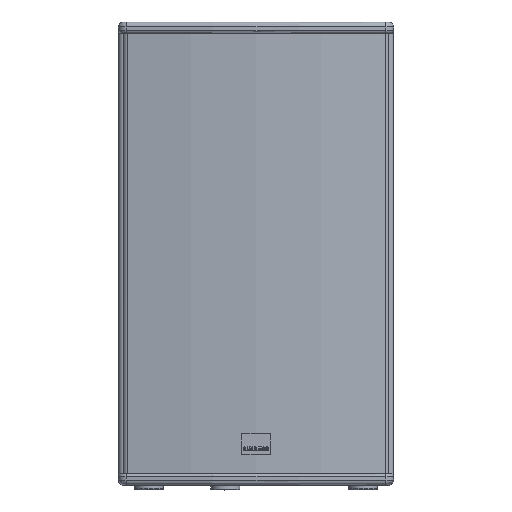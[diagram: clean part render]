
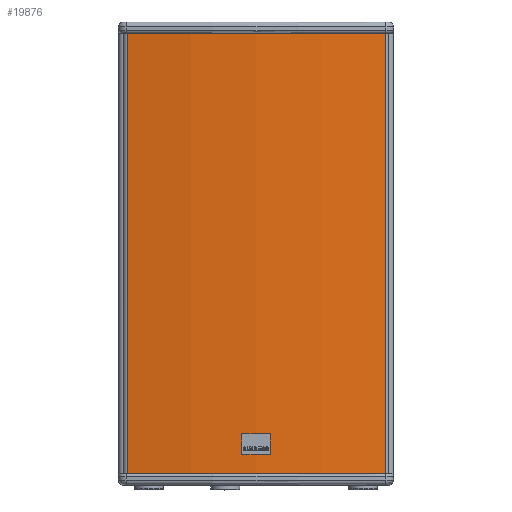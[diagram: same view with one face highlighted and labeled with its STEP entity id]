
A CAD part, top view. The second image highlights one B-rep face of the part: STEP entity #19876.
In plain terms, the highlighted cylindrical face has radius 952.205 mm (diameter 1904.41 mm), a partial arc.
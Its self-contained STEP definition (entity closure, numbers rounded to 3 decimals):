
#7920 = EDGE_CURVE ( 'NONE', #7927, #7946, #10424, .T. ) ;
#7921 = ORIENTED_EDGE ( 'NONE', *, *, #7920, .F. ) ;
#7923 = VERTEX_POINT ( 'NONE', #10420 ) ;
#7926 = EDGE_CURVE ( 'NONE', #7927, #7923, #10419, .T. ) ;
#7927 = VERTEX_POINT ( 'NONE', #10414 ) ;
#7946 = VERTEX_POINT ( 'NONE', #10440 ) ;
#7949 = EDGE_CURVE ( 'NONE', #7946, #19878, #10498, .T. ) ;
#7950 = ORIENTED_EDGE ( 'NONE', *, *, #7949, .F. ) ;
#10414 = CARTESIAN_POINT ( 'NONE',  ( 11.205, 20.618, 0. ) ) ;
#10415 = DIRECTION ( 'NONE',  ( 1., 0., 0. ) ) ;
#10416 = DIRECTION ( 'NONE',  ( 0., 0., 1. ) ) ;
#10417 = CARTESIAN_POINT ( 'NONE',  ( 180.065, 957.731, 0. ) ) ;
#10418 = AXIS2_PLACEMENT_3D ( 'NONE', #10417, #10416, #10415 ) ;
#10419 = CIRCLE ( 'NONE', #10418, 952.205 ) ;
#10420 = CARTESIAN_POINT ( 'NONE',  ( 348.925, 20.618, 0. ) ) ;
#10421 = DIRECTION ( 'NONE',  ( 0., 0., 1. ) ) ;
#10422 = VECTOR ( 'NONE', #10421, 1000. ) ;
#10423 = CARTESIAN_POINT ( 'NONE',  ( 11.205, 20.618, 0. ) ) ;
#10424 = LINE ( 'NONE', #10423, #10422 ) ;
#10440 = CARTESIAN_POINT ( 'NONE',  ( 11.205, 20.618, 576. ) ) ;
#10494 = DIRECTION ( 'NONE',  ( 1., 0., 0. ) ) ;
#10495 = DIRECTION ( 'NONE',  ( 0., 0., 1. ) ) ;
#10496 = CARTESIAN_POINT ( 'NONE',  ( 180.065, 957.731, 576. ) ) ;
#10497 = AXIS2_PLACEMENT_3D ( 'NONE', #10496, #10495, #10494 ) ;
#10498 = CIRCLE ( 'NONE', #10497, 952.205 ) ;
#10734 = DIRECTION ( 'NONE',  ( 1., 0., 0. ) ) ;
#10735 = DIRECTION ( 'NONE',  ( 0., 0., 1. ) ) ;
#10736 = AXIS2_PLACEMENT_3D ( 'NONE', #10738, #10735, #10734 ) ;
#10738 = CARTESIAN_POINT ( 'NONE',  ( 180.065, 957.731, 0. ) ) ;
#10739 = CYLINDRICAL_SURFACE ( 'NONE', #10736, 952.205 ) ;
#10740 = FACE_OUTER_BOUND ( 'NONE', #19875, .T. ) ;
#10746 = DIRECTION ( 'NONE',  ( 0., 0., -1. ) ) ;
#10747 = VECTOR ( 'NONE', #10746, 1000. ) ;
#10748 = CARTESIAN_POINT ( 'NONE',  ( 348.925, 20.618, 0. ) ) ;
#10749 = LINE ( 'NONE', #10748, #10747 ) ;
#10785 = CARTESIAN_POINT ( 'NONE',  ( 348.925, 20.618, 576. ) ) ;
#19870 = ORIENTED_EDGE ( 'NONE', *, *, #19871, .F. ) ;
#19871 = EDGE_CURVE ( 'NONE', #19878, #7923, #10749, .T. ) ;
#19872 = ORIENTED_EDGE ( 'NONE', *, *, #7926, .T. ) ;
#19875 = EDGE_LOOP ( 'NONE', ( #19872, #19870, #7950, #7921 ) ) ;
#19876 = ADVANCED_FACE ( 'NONE', ( #10740 ), #10739, .T. ) ;
#19878 = VERTEX_POINT ( 'NONE', #10785 ) ;
